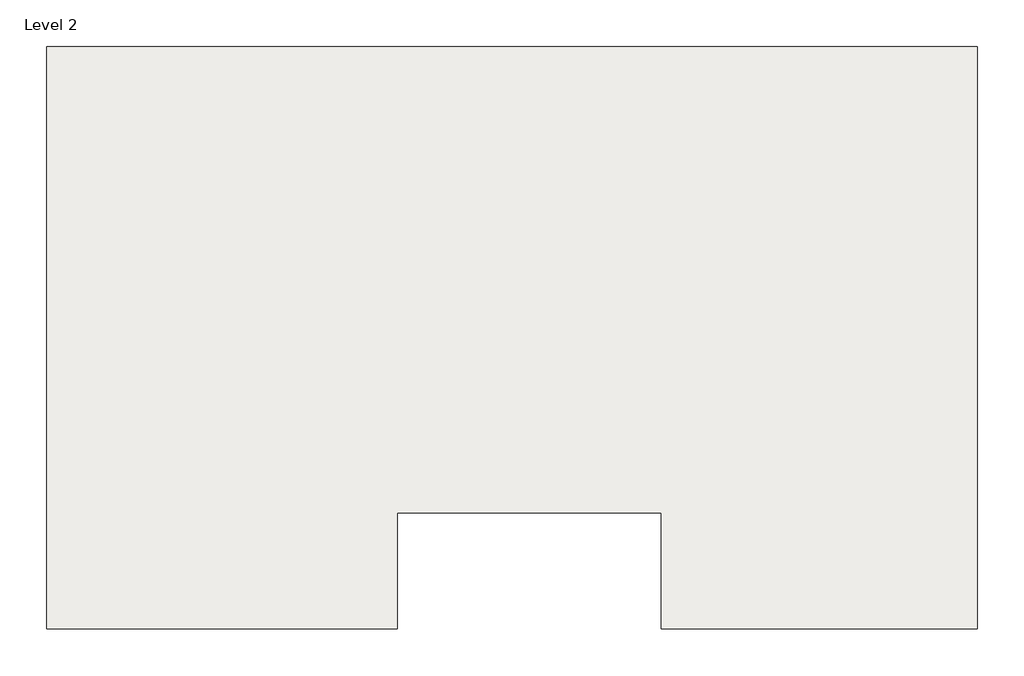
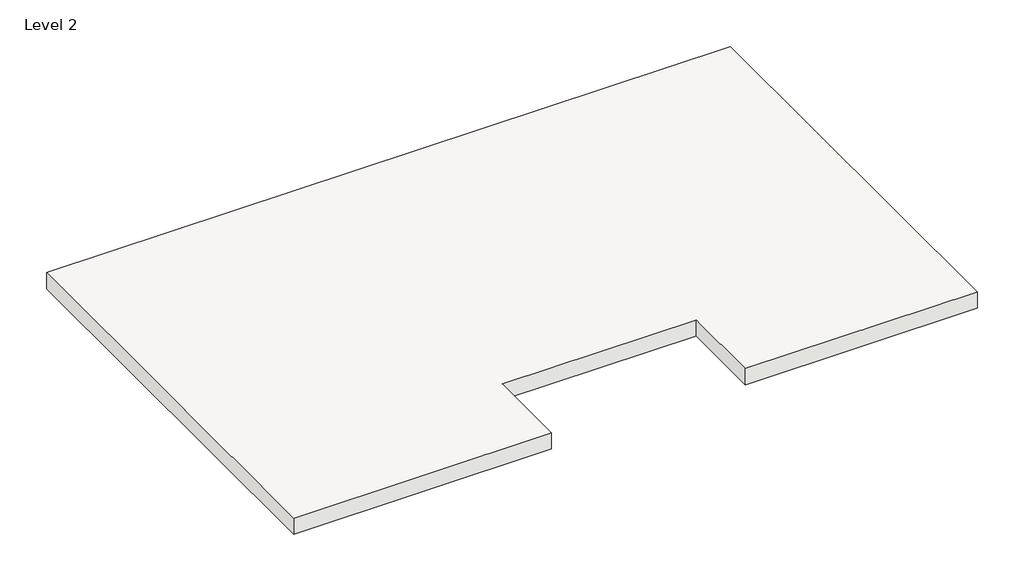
# One storey: 1 roof.
"""IFC4 building model written with IfcOpenShell, lengths in millimetres."""

from ifc_helpers import new_model, si_unit, frame, origin, place, context, project, spatial, polyline, outline, extrude, element, save

model = new_model("IFC4")

# Units and contexts
model_context = context("Model", 3, world=origin())
ifc_project = project(units=[si_unit("LENGTHUNIT", "METRE", prefix="MILLI")], contexts=[model_context])

# Site, building, storey
site = spatial("IfcSite", under=ifc_project)
building = spatial("IfcBuilding", under=site)
storey = spatial("IfcBuildingStorey", under=building, Name="Level 2", Elevation=3048.0)

# Roof
placement = place(None, origin())
element("IfcRoof", 1, ObjectType="Generic - 12\"", at=placement, inside=storey, context=model_context, shape_type="SweptSolid", body=[
    extrude(outline(polyline([(-7988.7345581, 4957.9640761), (4241.3654419, 4957.9640761), (4241.3654419, -2700.1359239), (88.4654419, -2700.1359239), (88.4654419, -1176.1359239), (-3378.6345581, -1176.1359239), (-3378.6345581, -2700.1359239), (-7988.7345581, -2700.1359239), (-7988.7345581, 4957.9640761)])), frame((0.0, 0.0, 2590.8), z_axis=(0.0, 0.0, 1.0), x_axis=(1.0, 0.0, 0.0)), (0.0, 0.0, 1.0), 304.8),
])

save(model, "model.ifc")
